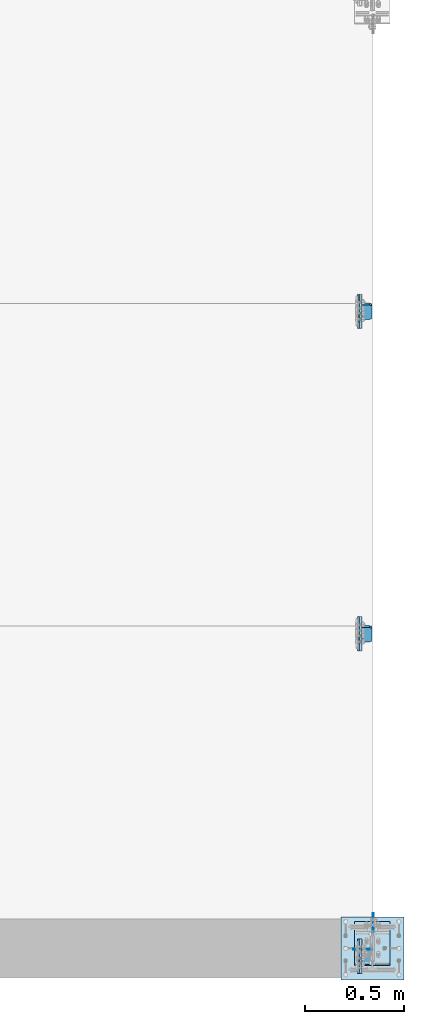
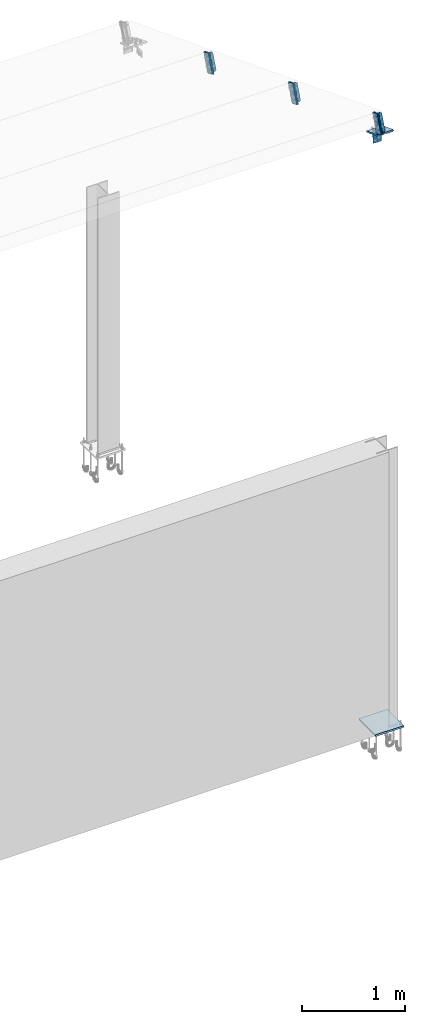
# One storey, part 6 of 72: 13 plates.
"""IFC4 building model written with IfcOpenShell, lengths in metres."""

from ifc_helpers import new_model, si_unit, frame, origin_with_axes, place, context, project, spatial, polyline, outline, extrude, type_object, element, save


model = new_model("IFC4")

# Units and contexts
model_context = context("Model", 3, precision=1e-05, world=origin_with_axes())
ifc_project = project(units=[si_unit("LENGTHUNIT", "METRE"), si_unit("AREAUNIT", "SQUARE_METRE"), si_unit("VOLUMEUNIT", "CUBIC_METRE"), si_unit("MASSUNIT", "GRAM", prefix="KILO"), si_unit("TIMEUNIT", "SECOND"), si_unit("PLANEANGLEUNIT", "RADIAN"), si_unit("SOLIDANGLEUNIT", "STERADIAN"), si_unit("THERMODYNAMICTEMPERATUREUNIT", "DEGREE_CELSIUS")], contexts=[model_context])

# Site, building, storey
placement_1 = place(None, origin_with_axes())
site = spatial("IfcSite", under=ifc_project, at=placement_1, Name="Italia", CompositionType="ELEMENT")
building = spatial("IfcBuilding", under=site, at=placement_1, Name="Uffici", CompositionType="ELEMENT")
storey = spatial("IfcBuildingStorey", under=building, at=placement_1, Name="Storey 0", CompositionType="ELEMENT", Elevation=0.0)

# Plates
plate_type_1 = type_object("IfcPlateType", Name="Collegamento -020_-019", PredefinedType="SHEET")
placement_2 = place(placement_1, origin_with_axes())
plate_1_placement = place(placement_2, origin_with_axes())
element("IfcPlate", 1, at=plate_1_placement, inside=storey, type_object=plate_type_1, Name="Collegamento -020_-019", context=model_context, shape_type="SweptSolid", body=[
    extrude(outline(polyline([(0.0, 0.0), (-0.0932386, 0.0361462), (-0.0137169, 0.241271), (0.0795217, 0.205125), (0.0, 0.0)])), frame((13.905, 3.23376, 5.75013), z_axis=(1.0, 0.0, 0.0), x_axis=(0.0, 1.0, 0.0)), (0.0, 0.0, 1.0), 0.0100002),
])
plate_type_2 = type_object("IfcPlateType", Name="Collegamento -020_-019", PredefinedType="SHEET")
plate_2_placement = place(placement_2, origin_with_axes())
element("IfcPlate", 2, at=plate_2_placement, inside=storey, type_object=plate_type_2, Name="Collegamento -020_-019", context=model_context, shape_type="SweptSolid", body=[
    extrude(outline(polyline([(0.0, 0.0), (-0.0932386, 0.0361462), (-0.0137169, 0.241271), (0.0795217, 0.205125), (0.0, 0.0)])), frame((13.895, 3.23376, 5.75013), z_axis=(1.0, 0.0, 0.0), x_axis=(0.0, 1.0, 0.0)), (0.0, 0.0, 1.0), 0.0100002),
])
plate_type_3 = type_object("IfcPlateType", Name="Collegamento -020_-019", PredefinedType="SHEET")
plate_3_placement = place(placement_2, origin_with_axes())
element("IfcPlate", 3, at=plate_3_placement, inside=storey, type_object=plate_type_3, Name="Collegamento -020_-019", context=model_context, shape_type="SweptSolid", body=[
    extrude(outline(polyline([(0.0, 0.0), (0.0400496, 0.0), (0.0520496, 0.0120006), (0.0520496, 0.189601), (0.0400496, 0.201601), (0.0, 0.201601), (0.0, 0.0)])), frame((13.915, 3.19513, 5.77498), z_axis=(0.0, -0.93237692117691, 0.361487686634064), x_axis=(1.0, 0.0, 0.0)), (0.0, 0.0, 1.0), 0.0100001),
])
plate_type_4 = type_object("IfcPlateType", Name="Collegamento -030_-029", PredefinedType="SHEET")
plate_4_placement = place(placement_2, origin_with_axes())
element("IfcPlate", 4, at=plate_4_placement, inside=storey, type_object=plate_type_4, Name="Collegamento -030_-029", context=model_context, shape_type="SweptSolid", body=[
    extrude(outline(polyline([(0.0, 0.0), (-0.0932387, 0.0361462), (-0.0137168, 0.241272), (0.0795219, 0.205126), (0.0, 0.0)])), frame((13.905, 1.60043, 6.38347), z_axis=(1.0, 0.0, 0.0), x_axis=(0.0, 1.0, 0.0)), (0.0, 0.0, 1.0), 0.0100002),
])
plate_type_5 = type_object("IfcPlateType", Name="Collegamento -030_-029", PredefinedType="SHEET")
plate_5_placement = place(placement_2, origin_with_axes())
element("IfcPlate", 5, at=plate_5_placement, inside=storey, type_object=plate_type_5, Name="Collegamento -030_-029", context=model_context, shape_type="SweptSolid", body=[
    extrude(outline(polyline([(0.0, 0.0), (-0.0932387, 0.0361462), (-0.0137168, 0.241272), (0.0795219, 0.205126), (0.0, 0.0)])), frame((13.895, 1.60043, 6.38347), z_axis=(1.0, 0.0, 0.0), x_axis=(0.0, 1.0, 0.0)), (0.0, 0.0, 1.0), 0.0100002),
])
plate_type_6 = type_object("IfcPlateType", Name="Collegamento -030_-029", PredefinedType="SHEET")
plate_6_placement = place(placement_2, origin_with_axes())
element("IfcPlate", 6, at=plate_6_placement, inside=storey, type_object=plate_type_6, Name="Collegamento -030_-029", context=model_context, shape_type="SweptSolid", body=[
    extrude(outline(polyline([(0.0, 0.0), (0.0400496, 0.0), (0.0520496, 0.0120001), (0.0520496, 0.1896), (0.0400496, 0.2016), (0.0, 0.2016), (0.0, 0.0)])), frame((13.915, 1.5618, 6.40831), z_axis=(0.0, -0.93237692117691, 0.361487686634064), x_axis=(1.0, 0.0, 0.0)), (0.0, 0.0, 1.0), 0.0100001),
])
plate_type_7 = type_object("IfcPlateType", Name="Collegamenti 0001_0101 0002_0102 0003_0103 0004_0104 0005_0105 0011_0111 0012_0112 0013_0113 0014_0114 0015_0115", PredefinedType="SHEET")
plate_7_placement = place(placement_2, origin_with_axes())
element("IfcPlate", 7, at=plate_7_placement, inside=storey, type_object=plate_type_7, Name="Collegamenti 0001_0101 0002_0102 0003_0103 0004_0104 0005_0105 0011_0111 0012_0112 0013_0113 0014_0114 0015_0115", context=model_context, shape_type="SweptSolid", body=[
    extrude(outline(polyline([(0.0, 0.0), (0.0, 0.32), (0.32, 0.32), (0.32, 0.0), (0.0, 0.0)])), frame((13.81, -0.16, 0.02), z_axis=(0.0, 0.0, -1.0), x_axis=(0.0, 1.0, 0.0)), (0.0, 0.0, 1.0), 0.02),
])
plate_type_8 = type_object("IfcPlateType", Name="Collegamento 0205_0104", PredefinedType="SHEET")
plate_8_placement = place(placement_2, origin_with_axes())
element("IfcPlate", 8, at=plate_8_placement, inside=storey, type_object=plate_type_8, Name="Collegamento 0205_0104", context=model_context, shape_type="SweptSolid", body=[
    extrude(outline(polyline([(0.0, 0.0), (-0.0950003, 4.76837e-07), (-0.0950003, -0.0989995), (0.0, -0.099), (0.0, 0.0)])), frame((13.872, -0.0075, 6.98887), z_axis=(0.0, 1.0, 0.0), x_axis=(-1.0, 0.0, 0.0)), (0.0, 0.0, 1.0), 0.005),
])
plate_type_9 = type_object("IfcPlateType", Name="Collegamento 0205_0105", PredefinedType="SHEET")
plate_9_placement = place(placement_2, origin_with_axes())
element("IfcPlate", 9, at=plate_9_placement, inside=storey, type_object=plate_type_9, Name="Collegamento 0205_0105", context=model_context, shape_type="SweptSolid", body=[
    extrude(outline(polyline([(0.0, 0.0), (0.18, 0.0), (0.18, -0.23341), (0.0, -0.23341), (0.0, 0.0)])), frame((14.06, -0.0855034, 7.02111), z_axis=(0.0, 0.361523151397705, 0.932363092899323), x_axis=(-1.0, 0.0, 0.0)), (0.0, 0.0, 1.0), 0.0150002),
])
plate_type_10 = type_object("IfcPlateType", Name="Collegamento 0205_0110", PredefinedType="SHEET")
plate_10_placement = place(placement_2, origin_with_axes())
element("IfcPlate", 10, at=plate_10_placement, inside=storey, type_object=plate_type_10, Name="Collegamento 0205_0110", context=model_context, shape_type="SweptSolid", body=[
    extrude(outline(polyline([(0.0, 0.0), (0.0920001, 0.0), (0.0920002, -0.104), (1.49012e-07, -0.104), (0.0, 0.0)])), frame((13.9775, 0.1775, 6.92356), z_axis=(-1.0, 0.0, 0.0), x_axis=(0.0, -1.0, 0.0)), (0.0, 0.0, 1.0), 0.00500011),
])
plate_type_11 = type_object("IfcPlateType", Name="Collegamento 0205_0204", PredefinedType="SHEET")
plate_11_placement = place(placement_2, origin_with_axes())
element("IfcPlate", 11, at=plate_11_placement, inside=storey, type_object=plate_type_11, Name="Collegamento 0205_0204", context=model_context, shape_type="SweptSolid", body=[
    extrude(outline(polyline([(0.0, 0.0), (-0.0932387, 0.0361462), (-0.0137157, 0.241275), (0.079523, 0.205129), (0.0, 0.0)])), frame((13.905, -0.0329024, 7.0168), z_axis=(1.0, 0.0, 0.0), x_axis=(0.0, 1.0, 0.0)), (0.0, 0.0, 1.0), 0.0100002),
])
plate_type_12 = type_object("IfcPlateType", Name="Collegamento 0205_0204", PredefinedType="SHEET")
plate_12_placement = place(placement_2, origin_with_axes())
element("IfcPlate", 12, at=plate_12_placement, inside=storey, type_object=plate_type_12, Name="Collegamento 0205_0204", context=model_context, shape_type="SweptSolid", body=[
    extrude(outline(polyline([(0.0, 0.0), (-0.0932387, 0.0361462), (-0.013717, 0.241272), (0.0795217, 0.205126), (0.0, 0.0)])), frame((13.895, -0.0329024, 7.0168), z_axis=(1.0, 0.0, 0.0), x_axis=(0.0, 1.0, 0.0)), (0.0, 0.0, 1.0), 0.0100002),
])
plate_type_13 = type_object("IfcPlateType", Name="Collegamento 0205_0204", PredefinedType="SHEET")
plate_13_placement = place(placement_2, origin_with_axes())
element("IfcPlate", 13, at=plate_13_placement, inside=storey, type_object=plate_type_13, Name="Collegamento 0205_0204", context=model_context, shape_type="SweptSolid", body=[
    extrude(outline(polyline([(0.0, 0.0), (0.0400496, 0.0), (0.0520496, 0.0119996), (0.0520496, 0.1896), (0.0400496, 0.201601), (0.0, 0.201601), (0.0, 0.0)])), frame((13.915, -0.0715331, 7.04165), z_axis=(0.0, -0.932393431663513, 0.36144495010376), x_axis=(1.0, 0.0, 0.0)), (0.0, 0.0, 1.0), 0.00999993),
])

save(model, "model.ifc")
